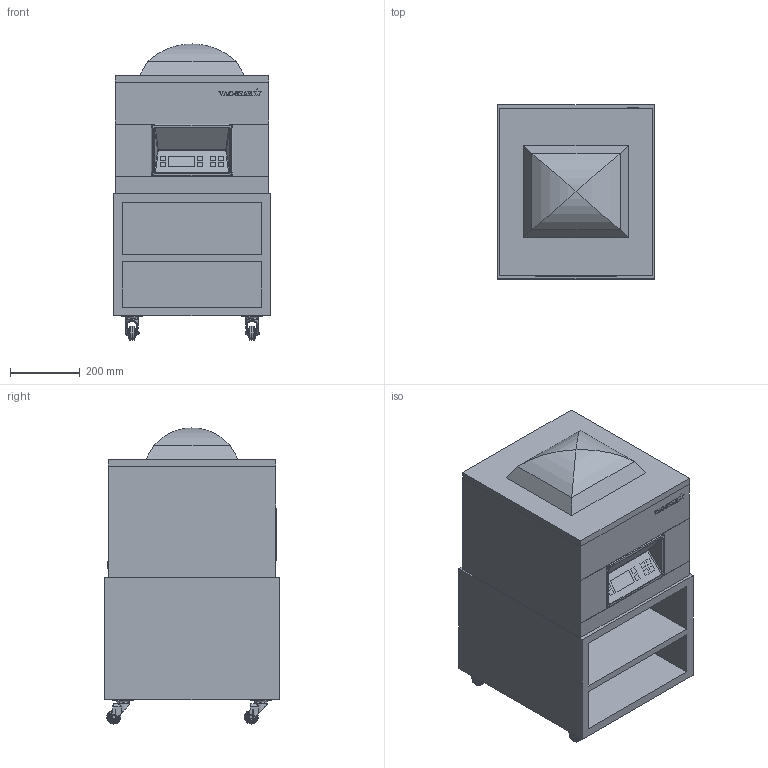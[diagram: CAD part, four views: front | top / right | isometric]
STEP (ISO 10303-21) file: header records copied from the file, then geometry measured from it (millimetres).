
FILE_DESCRIPTION(/* description */ ('Unknown'),/* implementation_level */ '2;1');
FILE_NAME(/* name */ 'C3D-S215-mit-Unterbau-SUC-AA',/* time_stamp */ '2021-10-22T10:09:37+02:00',/* author */ ('Unknown'),/* organization */ ('Unknown'),/* preprocessor_version */ 'ST-DEVELOPER v16.7',/* originating_system */ 'Solid Edge',/* authorisation */ 'Unknown');
FILE_SCHEMA (('AUTOMOTIVE_DESIGN {1 0 10303 214 3 1 1}'));
Length unit declared in the file: millimetre
Products named in the file (8): R-VAC-STAR_S215-UC; R-VAC-STAR-U-S_UC; 310X PT 50 EL; 310X PT 50 EL_body; 310X PT 50 EL_shaft; 50 EL-6-X; 310X PT 50 EL_plate; R-VAC-STAR-S215
Assembly tree (10 placements, depth 3):
  R-VAC-STAR_S215-UC
    R-VAC-STAR-U-S_UC
    310X PT 50 EL  x4
      310X PT 50 EL_body
      310X PT 50 EL_shaft
      50 EL-6-X
      310X PT 50 EL_plate
    R-VAC-STAR-S215
Bounding box: 450 x 500 x 850 mm (x, y, z)
Volume: 86015428.6 mm3; surface area: 3919301.5 mm2
Topology: 19 solids, 19 shells, 1546 faces, 3747 edges, 2418 vertices
Faces by surface type: plane 888, cylinder 359, cone 128, torus 116, bspline 29, sphere 26
Full cylindrical faces by diameter (mm): 0.025 x4, 0.1 x4, 1.2 x4, 1.25 x4, 6 x20, 7 x8, 7.8 x8, 9 x8, 10.8 x8, 13 x4, 21 x8, 30 x4, 34.5 x8, 36 x12, 37.5 x8, 39.5 x8, 40 x12
Entity records: 21291 total; most frequent: CARTESIAN_POINT 5736, ORIENTED_EDGE 2694, DIRECTION 2511, EDGE_CURVE 1347, VERTEX_POINT 912, AXIS2_PLACEMENT_3D 859, LINE 793, VECTOR 793
